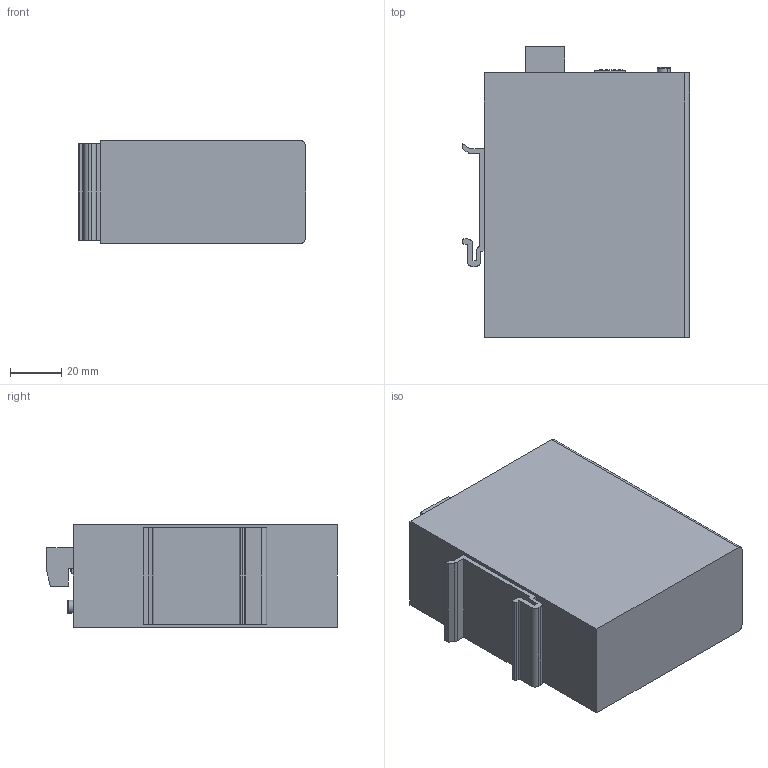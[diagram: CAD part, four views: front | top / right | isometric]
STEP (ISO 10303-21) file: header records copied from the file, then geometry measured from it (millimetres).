
FILE_DESCRIPTION((''),'2;1');
FILE_NAME('FAS-MS108T_ASM','2022-06-06T',('PC'),(''),'PRO/ENGINEER BY PARAMETRIC TECHNOLOGY CORPORATION, 2009220','PRO/ENGINEER BY PARAMETRIC TECHNOLOGY CORPORATION, 2009220','');
FILE_SCHEMA(('CONFIG_CONTROL_DESIGN'));
Products named in the file (4): ____3___________-8P_____211115; __________-8P_____211115_ASM; _FAS-MS108T; FAS-MS108T_ASM
Assembly tree (3 placements, depth 3):
  FAS-MS108T_ASM
    __________-8P_____211115_ASM
      ____3___________-8P_____211115
    _FAS-MS108T
Bounding box: 88.5 x 113.3 x 40 mm (x, y, z)
Volume: 327340 mm3; surface area: 40161.2 mm2
Topology: 1 solids, 2 shells, 1865 faces, 4825 edges, 3148 vertices
Faces by surface type: plane 1311, extrusion 365, cylinder 142, torus 20, cone 16, bspline 11
Entity records: 71556 total; most frequent: CARTESIAN_POINT 27200, ORIENTED_EDGE 9650, DIRECTION 7714, EDGE_CURVE 4825, VECTOR 4100, LINE 3735, VERTEX_POINT 3148, EDGE_LOOP 2049
